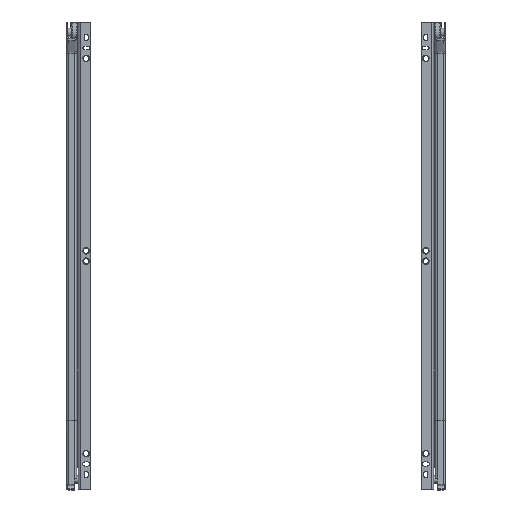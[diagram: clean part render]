
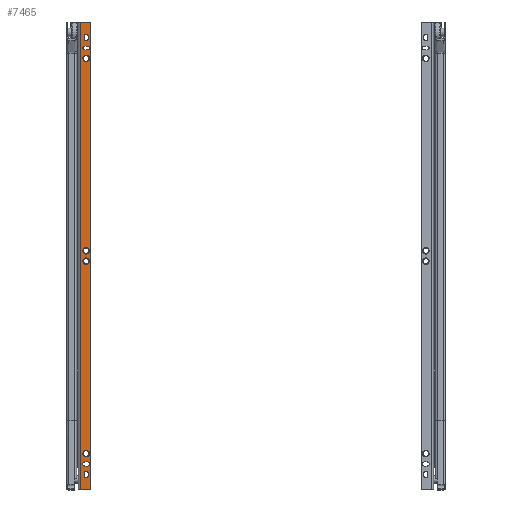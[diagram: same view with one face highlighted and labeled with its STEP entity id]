
A CAD part, front view. The second image highlights one B-rep face of the part: STEP entity #7465.
In plain terms, the highlighted planar face has unit normal (0, -1, 0.001).
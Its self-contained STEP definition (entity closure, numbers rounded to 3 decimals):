
#248=FACE_BOUND('',#1791,.T.);
#249=FACE_BOUND('',#1792,.T.);
#250=FACE_BOUND('',#1793,.T.);
#251=FACE_BOUND('',#1794,.T.);
#252=FACE_BOUND('',#1795,.T.);
#253=FACE_BOUND('',#1796,.T.);
#254=FACE_BOUND('',#1797,.T.);
#255=FACE_BOUND('',#1798,.T.);
#783=CIRCLE('',#8188,3.2);
#784=CIRCLE('',#8190,2.);
#785=CIRCLE('',#8191,2.);
#786=CIRCLE('',#8192,3.2);
#787=CIRCLE('',#8193,3.2);
#788=CIRCLE('',#8194,2.);
#789=CIRCLE('',#8195,2.);
#790=CIRCLE('',#8196,1.9);
#791=CIRCLE('',#8197,1.9);
#792=CIRCLE('',#8198,2.);
#793=CIRCLE('',#8199,2.);
#794=CIRCLE('',#8200,2.);
#795=CIRCLE('',#8201,2.);
#796=CIRCLE('',#8202,3.2);
#1239=FACE_OUTER_BOUND('',#1790,.T.);
#1790=EDGE_LOOP('',(#5995,#5996,#5997,#5998,#5999,#6000));
#1791=EDGE_LOOP('',(#6001));
#1792=EDGE_LOOP('',(#6002));
#1793=EDGE_LOOP('',(#6003,#6004,#6005,#6006));
#1794=EDGE_LOOP('',(#6007,#6008,#6009,#6010));
#1795=EDGE_LOOP('',(#6011,#6012,#6013,#6014));
#1796=EDGE_LOOP('',(#6015,#6016,#6017,#6018));
#1797=EDGE_LOOP('',(#6019));
#1798=EDGE_LOOP('',(#6020));
#2362=LINE('',#12290,#2892);
#2363=LINE('',#12292,#2893);
#2364=LINE('',#12294,#2894);
#2365=LINE('',#12297,#2895);
#2366=LINE('',#12306,#2896);
#2367=LINE('',#12309,#2897);
#2368=LINE('',#12314,#2898);
#2369=LINE('',#12317,#2899);
#2370=LINE('',#12322,#2900);
#2371=LINE('',#12325,#2901);
#2372=LINE('',#12330,#2902);
#2373=LINE('',#12333,#2903);
#2892=VECTOR('',#10009,8.);
#2893=VECTOR('',#10010,450.);
#2894=VECTOR('',#10011,8.);
#2895=VECTOR('',#10014,446.);
#2896=VECTOR('',#10021,2.5);
#2897=VECTOR('',#10024,2.5);
#2898=VECTOR('',#10027,2.7);
#2899=VECTOR('',#10030,2.7);
#2900=VECTOR('',#10033,2.5);
#2901=VECTOR('',#10036,2.5);
#2902=VECTOR('',#10039,2.5);
#2903=VECTOR('',#10042,2.5);
#3498=VERTEX_POINT('',#12283);
#3499=VERTEX_POINT('',#12286);
#3500=VERTEX_POINT('',#12287);
#3501=VERTEX_POINT('',#12289);
#3502=VERTEX_POINT('',#12291);
#3503=VERTEX_POINT('',#12293);
#3504=VERTEX_POINT('',#12295);
#3505=VERTEX_POINT('',#12298);
#3506=VERTEX_POINT('',#12300);
#3507=VERTEX_POINT('',#12302);
#3508=VERTEX_POINT('',#12303);
#3509=VERTEX_POINT('',#12305);
#3510=VERTEX_POINT('',#12307);
#3511=VERTEX_POINT('',#12310);
#3512=VERTEX_POINT('',#12311);
#3513=VERTEX_POINT('',#12313);
#3514=VERTEX_POINT('',#12315);
#3515=VERTEX_POINT('',#12318);
#3516=VERTEX_POINT('',#12319);
#3517=VERTEX_POINT('',#12321);
#3518=VERTEX_POINT('',#12323);
#3519=VERTEX_POINT('',#12326);
#3520=VERTEX_POINT('',#12327);
#3521=VERTEX_POINT('',#12329);
#3522=VERTEX_POINT('',#12331);
#3523=VERTEX_POINT('',#12334);
#4374=EDGE_CURVE('',#3498,#3498,#783,.T.);
#4375=EDGE_CURVE('',#3499,#3500,#784,.T.);
#4376=EDGE_CURVE('',#3501,#3499,#2362,.T.);
#4377=EDGE_CURVE('',#3502,#3501,#2363,.T.);
#4378=EDGE_CURVE('',#3502,#3503,#2364,.T.);
#4379=EDGE_CURVE('',#3504,#3503,#785,.T.);
#4380=EDGE_CURVE('',#3504,#3500,#2365,.T.);
#4381=EDGE_CURVE('',#3505,#3505,#786,.T.);
#4382=EDGE_CURVE('',#3506,#3506,#787,.T.);
#4383=EDGE_CURVE('',#3507,#3508,#788,.T.);
#4384=EDGE_CURVE('',#3508,#3509,#2366,.T.);
#4385=EDGE_CURVE('',#3509,#3510,#789,.T.);
#4386=EDGE_CURVE('',#3510,#3507,#2367,.T.);
#4387=EDGE_CURVE('',#3511,#3512,#790,.T.);
#4388=EDGE_CURVE('',#3512,#3513,#2368,.T.);
#4389=EDGE_CURVE('',#3513,#3514,#791,.T.);
#4390=EDGE_CURVE('',#3514,#3511,#2369,.T.);
#4391=EDGE_CURVE('',#3515,#3516,#792,.T.);
#4392=EDGE_CURVE('',#3516,#3517,#2370,.T.);
#4393=EDGE_CURVE('',#3517,#3518,#793,.T.);
#4394=EDGE_CURVE('',#3518,#3515,#2371,.T.);
#4395=EDGE_CURVE('',#3519,#3520,#794,.T.);
#4396=EDGE_CURVE('',#3520,#3521,#2372,.T.);
#4397=EDGE_CURVE('',#3521,#3522,#795,.T.);
#4398=EDGE_CURVE('',#3522,#3519,#2373,.T.);
#4399=EDGE_CURVE('',#3523,#3523,#796,.T.);
#5995=ORIENTED_EDGE('',*,*,#4375,.F.);
#5996=ORIENTED_EDGE('',*,*,#4376,.F.);
#5997=ORIENTED_EDGE('',*,*,#4377,.F.);
#5998=ORIENTED_EDGE('',*,*,#4378,.T.);
#5999=ORIENTED_EDGE('',*,*,#4379,.F.);
#6000=ORIENTED_EDGE('',*,*,#4380,.T.);
#6001=ORIENTED_EDGE('',*,*,#4381,.F.);
#6002=ORIENTED_EDGE('',*,*,#4382,.F.);
#6003=ORIENTED_EDGE('',*,*,#4383,.T.);
#6004=ORIENTED_EDGE('',*,*,#4384,.T.);
#6005=ORIENTED_EDGE('',*,*,#4385,.T.);
#6006=ORIENTED_EDGE('',*,*,#4386,.T.);
#6007=ORIENTED_EDGE('',*,*,#4387,.T.);
#6008=ORIENTED_EDGE('',*,*,#4388,.T.);
#6009=ORIENTED_EDGE('',*,*,#4389,.T.);
#6010=ORIENTED_EDGE('',*,*,#4390,.T.);
#6011=ORIENTED_EDGE('',*,*,#4391,.T.);
#6012=ORIENTED_EDGE('',*,*,#4392,.T.);
#6013=ORIENTED_EDGE('',*,*,#4393,.T.);
#6014=ORIENTED_EDGE('',*,*,#4394,.T.);
#6015=ORIENTED_EDGE('',*,*,#4395,.T.);
#6016=ORIENTED_EDGE('',*,*,#4396,.T.);
#6017=ORIENTED_EDGE('',*,*,#4397,.T.);
#6018=ORIENTED_EDGE('',*,*,#4398,.T.);
#6019=ORIENTED_EDGE('',*,*,#4399,.F.);
#6020=ORIENTED_EDGE('',*,*,#4374,.F.);
#6686=PLANE('',#8189);
#7465=ADVANCED_FACE('',(#1239,#248,#249,#250,#251,#252,#253,#254,#255),
#6686,.T.);
#8188=AXIS2_PLACEMENT_3D('',#12284,#10003,#10004);
#8189=AXIS2_PLACEMENT_3D('',#12285,#10005,#10006);
#8190=AXIS2_PLACEMENT_3D('',#12288,#10007,#10008);
#8191=AXIS2_PLACEMENT_3D('',#12296,#10012,#10013);
#8192=AXIS2_PLACEMENT_3D('',#12299,#10015,#10016);
#8193=AXIS2_PLACEMENT_3D('',#12301,#10017,#10018);
#8194=AXIS2_PLACEMENT_3D('',#12304,#10019,#10020);
#8195=AXIS2_PLACEMENT_3D('',#12308,#10022,#10023);
#8196=AXIS2_PLACEMENT_3D('',#12312,#10025,#10026);
#8197=AXIS2_PLACEMENT_3D('',#12316,#10028,#10029);
#8198=AXIS2_PLACEMENT_3D('',#12320,#10031,#10032);
#8199=AXIS2_PLACEMENT_3D('',#12324,#10034,#10035);
#8200=AXIS2_PLACEMENT_3D('',#12328,#10037,#10038);
#8201=AXIS2_PLACEMENT_3D('',#12332,#10040,#10041);
#8202=AXIS2_PLACEMENT_3D('',#12335,#10043,#10044);
#10003=DIRECTION('center_axis',(0.,-1.,0.));
#10004=DIRECTION('ref_axis',(-1.,0.,0.));
#10005=DIRECTION('center_axis',(0.,-1.,0.));
#10006=DIRECTION('ref_axis',(1.,0.,0.));
#10007=DIRECTION('center_axis',(0.,1.,0.));
#10008=DIRECTION('ref_axis',(-0.707,0.,0.707));
#10009=DIRECTION('',(0.,0.,1.));
#10010=DIRECTION('',(-1.,0.,0.));
#10011=DIRECTION('',(0.,0.,1.));
#10012=DIRECTION('center_axis',(0.,1.,0.));
#10013=DIRECTION('ref_axis',(0.707,0.,0.707));
#10014=DIRECTION('',(-1.,0.,0.));
#10015=DIRECTION('center_axis',(0.,-1.,0.));
#10016=DIRECTION('ref_axis',(-1.,0.,0.));
#10017=DIRECTION('center_axis',(0.,-1.,0.));
#10018=DIRECTION('ref_axis',(-1.,0.,0.));
#10019=DIRECTION('center_axis',(0.,1.,0.));
#10020=DIRECTION('ref_axis',(0.,0.,1.));
#10021=DIRECTION('',(-1.,0.,0.));
#10022=DIRECTION('center_axis',(0.,1.,0.));
#10023=DIRECTION('ref_axis',(0.,0.,-1.));
#10024=DIRECTION('',(1.,0.,0.));
#10025=DIRECTION('center_axis',(0.,1.,0.));
#10026=DIRECTION('ref_axis',(1.,0.,0.));
#10027=DIRECTION('',(0.,0.,1.));
#10028=DIRECTION('center_axis',(0.,1.,0.));
#10029=DIRECTION('ref_axis',(-1.,0.,0.));
#10030=DIRECTION('',(0.,0.,-1.));
#10031=DIRECTION('center_axis',(0.,1.,0.));
#10032=DIRECTION('ref_axis',(1.,0.,0.));
#10033=DIRECTION('',(0.,0.,1.));
#10034=DIRECTION('center_axis',(0.,1.,0.));
#10035=DIRECTION('ref_axis',(-1.,0.,0.));
#10036=DIRECTION('',(0.,0.,-1.));
#10037=DIRECTION('center_axis',(0.,1.,0.));
#10038=DIRECTION('ref_axis',(0.,0.,1.));
#10039=DIRECTION('',(-1.,0.,0.));
#10040=DIRECTION('center_axis',(0.,1.,0.));
#10041=DIRECTION('ref_axis',(0.,0.,-1.));
#10042=DIRECTION('',(1.,0.,0.));
#10043=DIRECTION('center_axis',(0.,-1.,0.));
#10044=DIRECTION('ref_axis',(-1.,0.,0.));
#12283=CARTESIAN_POINT('',(-21.8,-12.,7.4));
#12284=CARTESIAN_POINT('Origin',(-25.,-12.,7.4));
#12285=CARTESIAN_POINT('Origin',(-440.,-12.,0.));
#12286=CARTESIAN_POINT('',(-440.,-12.,10.));
#12287=CARTESIAN_POINT('',(-438.,-12.,12.));
#12288=CARTESIAN_POINT('Origin',(-438.,-12.,10.));
#12289=CARTESIAN_POINT('',(-440.,-12.,2.));
#12290=CARTESIAN_POINT('',(-440.,-12.,0.));
#12291=CARTESIAN_POINT('',(10.,-12.,2.));
#12292=CARTESIAN_POINT('',(-327.117,-12.,2.));
#12293=CARTESIAN_POINT('',(10.,-12.,10.));
#12294=CARTESIAN_POINT('',(10.,-12.,0.));
#12295=CARTESIAN_POINT('',(8.,-12.,12.));
#12296=CARTESIAN_POINT('Origin',(8.,-12.,10.));
#12297=CARTESIAN_POINT('',(10.,-12.,12.));
#12298=CARTESIAN_POINT('',(-206.8,-12.,7.4));
#12299=CARTESIAN_POINT('Origin',(-210.,-12.,7.4));
#12300=CARTESIAN_POINT('',(-401.8,-12.,7.4));
#12301=CARTESIAN_POINT('Origin',(-405.,-12.,7.4));
#12302=CARTESIAN_POINT('',(-423.75,-12.,9.4));
#12303=CARTESIAN_POINT('',(-423.75,-12.,5.4));
#12304=CARTESIAN_POINT('Origin',(-423.75,-12.,7.4));
#12305=CARTESIAN_POINT('',(-426.25,-12.,5.4));
#12306=CARTESIAN_POINT('',(-433.125,-12.,5.4));
#12307=CARTESIAN_POINT('',(-426.25,-12.,9.4));
#12308=CARTESIAN_POINT('Origin',(-426.25,-12.,7.4));
#12309=CARTESIAN_POINT('',(-431.875,-12.,9.4));
#12310=CARTESIAN_POINT('',(-413.1,-12.,6.05));
#12311=CARTESIAN_POINT('',(-416.9,-12.,6.05));
#12312=CARTESIAN_POINT('Origin',(-415.,-12.,6.05));
#12313=CARTESIAN_POINT('',(-416.9,-12.,8.75));
#12314=CARTESIAN_POINT('',(-416.9,-12.,4.375));
#12315=CARTESIAN_POINT('',(-413.1,-12.,8.75));
#12316=CARTESIAN_POINT('Origin',(-415.,-12.,8.75));
#12317=CARTESIAN_POINT('',(-413.1,-12.,3.025));
#12318=CARTESIAN_POINT('',(-13.,-12.,6.15));
#12319=CARTESIAN_POINT('',(-17.,-12.,6.15));
#12320=CARTESIAN_POINT('Origin',(-15.,-12.,6.15));
#12321=CARTESIAN_POINT('',(-17.,-12.,8.65));
#12322=CARTESIAN_POINT('',(-17.,-12.,4.325));
#12323=CARTESIAN_POINT('',(-13.,-12.,8.65));
#12324=CARTESIAN_POINT('Origin',(-15.,-12.,8.65));
#12325=CARTESIAN_POINT('',(-13.,-12.,3.075));
#12326=CARTESIAN_POINT('',(-3.75,-12.,9.4));
#12327=CARTESIAN_POINT('',(-3.75,-12.,5.4));
#12328=CARTESIAN_POINT('Origin',(-3.75,-12.,7.4));
#12329=CARTESIAN_POINT('',(-6.25,-12.,5.4));
#12330=CARTESIAN_POINT('',(-223.125,-12.,5.4));
#12331=CARTESIAN_POINT('',(-6.25,-12.,9.4));
#12332=CARTESIAN_POINT('Origin',(-6.25,-12.,7.4));
#12333=CARTESIAN_POINT('',(-221.875,-12.,9.4));
#12334=CARTESIAN_POINT('',(-216.8,-12.,7.4));
#12335=CARTESIAN_POINT('Origin',(-220.,-12.,7.4));
